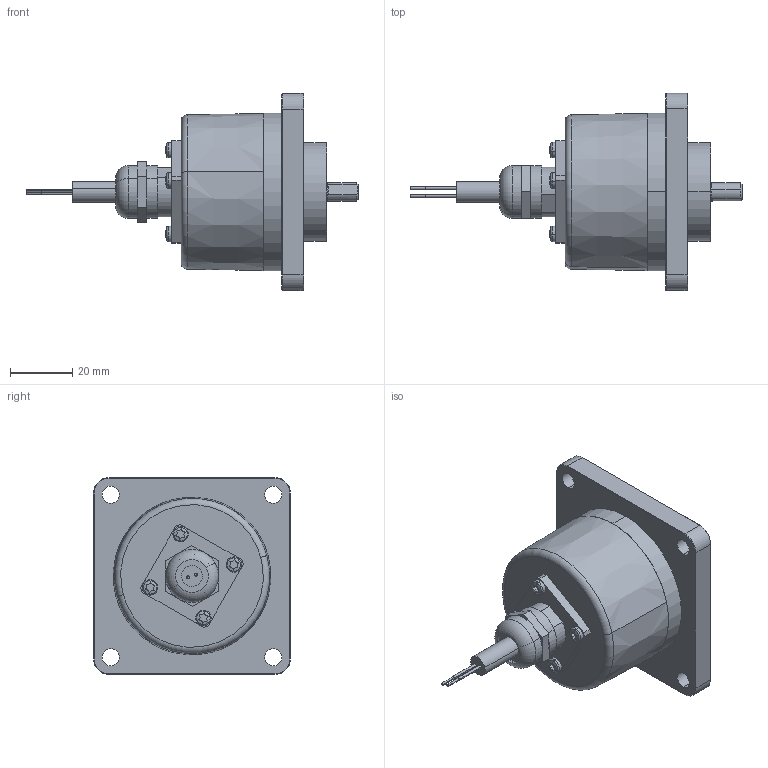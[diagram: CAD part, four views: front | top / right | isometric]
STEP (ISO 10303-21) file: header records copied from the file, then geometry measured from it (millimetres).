
FILE_DESCRIPTION (( 'STEP AP214' ), '1' );
FILE_NAME ('5000.D1X1.XXXX.STEP', '2009-01-14T08:59:08', ( 'admin' ), ( 'Fritz Kübler GmbH' ), 'SwSTEP 2.0', 'SolidWorks 2008', '' );
FILE_SCHEMA (( 'AUTOMOTIVE_DESIGN' ));
Length unit declared in the file: millimetre
Products named in the file (1): 5000.D1X1.XXXX
Bounding box: 107 x 63.5 x 63.5 mm (x, y, z)
Volume: 62680.7 mm3; surface area: 39330.3 mm2
Topology: 12 solids, 13 shells, 550 faces, 1284 edges, 777 vertices
Faces by surface type: plane 179, cylinder 156, cone 93, torus 75, sphere 35, bspline 12
Entity records: 22657 total; most frequent: CARTESIAN_POINT 3844, DIRECTION 2896, ORIENTED_EDGE 2448, EDGE_CURVE 1224, AXIS2_PLACEMENT_3D 1209, VERTEX_POINT 747, CIRCLE 670, EDGE_LOOP 647
